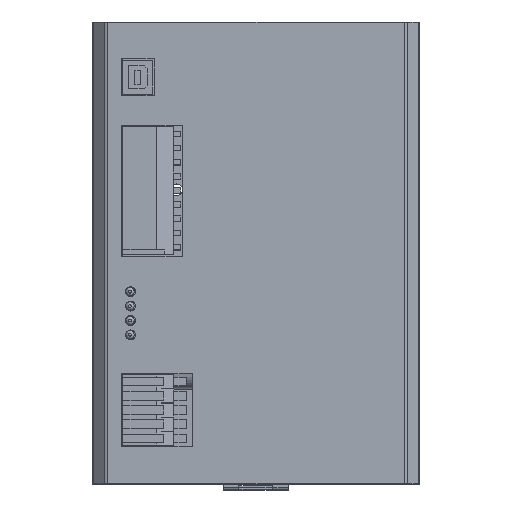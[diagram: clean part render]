
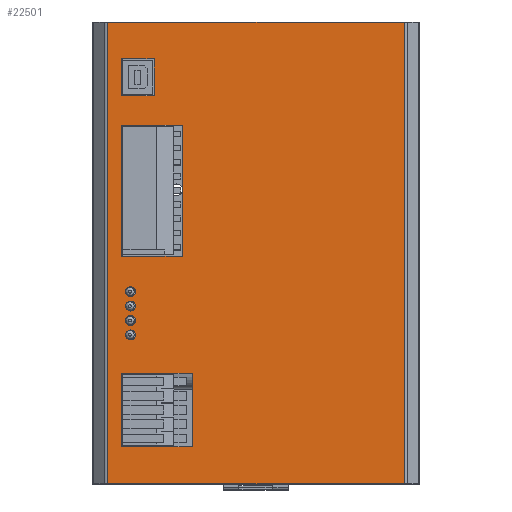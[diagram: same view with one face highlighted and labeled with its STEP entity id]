
A CAD part, top view. The second image highlights one B-rep face of the part: STEP entity #22501.
In plain terms, the highlighted planar face has unit normal (0, 0, 1).
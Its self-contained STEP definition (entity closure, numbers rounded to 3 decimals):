
#605=FACE_BOUND('',#3989,.T.);
#606=FACE_BOUND('',#3990,.T.);
#607=FACE_BOUND('',#3991,.T.);
#608=FACE_BOUND('',#3992,.T.);
#609=FACE_BOUND('',#3993,.T.);
#610=FACE_BOUND('',#3994,.T.);
#611=FACE_BOUND('',#3995,.T.);
#966=CIRCLE('',#23925,1.75);
#968=CIRCLE('',#23928,1.75);
#970=CIRCLE('',#23931,1.75);
#972=CIRCLE('',#23934,1.75);
#2527=FACE_OUTER_BOUND('',#3988,.T.);
#3988=EDGE_LOOP('',(#18781,#18782,#18783,#18784));
#3989=EDGE_LOOP('',(#18785,#18786,#18787,#18788));
#3990=EDGE_LOOP('',(#18789,#18790,#18791,#18792));
#3991=EDGE_LOOP('',(#18793,#18794,#18795,#18796));
#3992=EDGE_LOOP('',(#18797));
#3993=EDGE_LOOP('',(#18798));
#3994=EDGE_LOOP('',(#18799));
#3995=EDGE_LOOP('',(#18800));
#6187=LINE('',#35143,#8714);
#6188=LINE('',#35146,#8715);
#6304=LINE('',#35408,#8831);
#6307=LINE('',#35414,#8834);
#6310=LINE('',#35420,#8837);
#6313=LINE('',#35424,#8840);
#6315=LINE('',#35429,#8842);
#6318=LINE('',#35433,#8845);
#6321=LINE('',#35441,#8848);
#6324=LINE('',#35447,#8851);
#6327=LINE('',#35453,#8854);
#6330=LINE('',#35457,#8857);
#6343=LINE('',#35537,#8870);
#6348=LINE('',#35558,#8875);
#6359=LINE('',#35590,#8886);
#6360=LINE('',#35591,#8887);
#8714=VECTOR('',#28518,46.3);
#8715=VECTOR('',#28521,21.5);
#8831=VECTOR('',#28745,25.);
#8834=VECTOR('',#28750,26.1);
#8837=VECTOR('',#28755,25.);
#8840=VECTOR('',#28760,26.1);
#8842=VECTOR('',#28764,46.3);
#8845=VECTOR('',#28769,21.5);
#8848=VECTOR('',#28774,11.6);
#8851=VECTOR('',#28779,13.);
#8854=VECTOR('',#28784,11.6);
#8857=VECTOR('',#28789,13.);
#8870=VECTOR('',#28896,163.);
#8875=VECTOR('',#28915,163.);
#8886=VECTOR('',#28960,104.672);
#8887=VECTOR('',#28961,104.672);
#10741=VERTEX_POINT('',#34673);
#10743=VERTEX_POINT('',#34678);
#10745=VERTEX_POINT('',#34683);
#10747=VERTEX_POINT('',#34688);
#10917=VERTEX_POINT('',#35137);
#10919=VERTEX_POINT('',#35141);
#10920=VERTEX_POINT('',#35145);
#11011=VERTEX_POINT('',#35405);
#11012=VERTEX_POINT('',#35407);
#11014=VERTEX_POINT('',#35413);
#11016=VERTEX_POINT('',#35419);
#11018=VERTEX_POINT('',#35428);
#11021=VERTEX_POINT('',#35438);
#11022=VERTEX_POINT('',#35440);
#11024=VERTEX_POINT('',#35446);
#11026=VERTEX_POINT('',#35452);
#11045=VERTEX_POINT('',#35534);
#11046=VERTEX_POINT('',#35536);
#11052=VERTEX_POINT('',#35551);
#11055=VERTEX_POINT('',#35556);
#13348=EDGE_CURVE('',#10741,#10741,#966,.T.);
#13350=EDGE_CURVE('',#10743,#10743,#968,.T.);
#13352=EDGE_CURVE('',#10745,#10745,#970,.T.);
#13354=EDGE_CURVE('',#10747,#10747,#972,.T.);
#13584=EDGE_CURVE('',#10919,#10917,#6187,.T.);
#13585=EDGE_CURVE('',#10920,#10917,#6188,.T.);
#13715=EDGE_CURVE('',#11012,#11011,#6304,.T.);
#13718=EDGE_CURVE('',#11014,#11012,#6307,.T.);
#13721=EDGE_CURVE('',#11016,#11014,#6310,.T.);
#13724=EDGE_CURVE('',#11011,#11016,#6313,.T.);
#13726=EDGE_CURVE('',#11018,#10920,#6315,.T.);
#13729=EDGE_CURVE('',#10919,#11018,#6318,.T.);
#13732=EDGE_CURVE('',#11022,#11021,#6321,.T.);
#13735=EDGE_CURVE('',#11024,#11022,#6324,.T.);
#13738=EDGE_CURVE('',#11026,#11024,#6327,.T.);
#13741=EDGE_CURVE('',#11021,#11026,#6330,.T.);
#13780=EDGE_CURVE('',#11046,#11045,#6343,.T.);
#13790=EDGE_CURVE('',#11052,#11055,#6348,.T.);
#13805=EDGE_CURVE('',#11052,#11045,#6359,.T.);
#13806=EDGE_CURVE('',#11046,#11055,#6360,.T.);
#18781=ORIENTED_EDGE('',*,*,#13780,.T.);
#18782=ORIENTED_EDGE('',*,*,#13805,.F.);
#18783=ORIENTED_EDGE('',*,*,#13790,.T.);
#18784=ORIENTED_EDGE('',*,*,#13806,.F.);
#18785=ORIENTED_EDGE('',*,*,#13721,.T.);
#18786=ORIENTED_EDGE('',*,*,#13718,.T.);
#18787=ORIENTED_EDGE('',*,*,#13715,.T.);
#18788=ORIENTED_EDGE('',*,*,#13724,.T.);
#18789=ORIENTED_EDGE('',*,*,#13729,.T.);
#18790=ORIENTED_EDGE('',*,*,#13726,.T.);
#18791=ORIENTED_EDGE('',*,*,#13585,.T.);
#18792=ORIENTED_EDGE('',*,*,#13584,.F.);
#18793=ORIENTED_EDGE('',*,*,#13738,.T.);
#18794=ORIENTED_EDGE('',*,*,#13735,.T.);
#18795=ORIENTED_EDGE('',*,*,#13732,.T.);
#18796=ORIENTED_EDGE('',*,*,#13741,.T.);
#18797=ORIENTED_EDGE('',*,*,#13354,.T.);
#18798=ORIENTED_EDGE('',*,*,#13352,.T.);
#18799=ORIENTED_EDGE('',*,*,#13350,.T.);
#18800=ORIENTED_EDGE('',*,*,#13348,.T.);
#21364=PLANE('',#24152);
#22501=ADVANCED_FACE('',(#2527,#605,#606,#607,#608,#609,#610,#611),#21364,
 .T.);
#23925=AXIS2_PLACEMENT_3D('',#34674,#28134,#28135);
#23928=AXIS2_PLACEMENT_3D('',#34679,#28140,#28141);
#23931=AXIS2_PLACEMENT_3D('',#34684,#28146,#28147);
#23934=AXIS2_PLACEMENT_3D('',#34689,#28152,#28153);
#24152=AXIS2_PLACEMENT_3D('',#35589,#28958,#28959);
#28134=DIRECTION('center_axis',(0.,0.,-1.));
#28135=DIRECTION('ref_axis',(1.,0.,0.));
#28140=DIRECTION('center_axis',(0.,0.,-1.));
#28141=DIRECTION('ref_axis',(1.,0.,0.));
#28146=DIRECTION('center_axis',(0.,0.,-1.));
#28147=DIRECTION('ref_axis',(1.,0.,0.));
#28152=DIRECTION('center_axis',(0.,0.,-1.));
#28153=DIRECTION('ref_axis',(1.,0.,0.));
#28518=DIRECTION('',(0.,1.,0.));
#28521=DIRECTION('',(1.,0.,0.));
#28745=DIRECTION('',(1.,0.,0.));
#28750=DIRECTION('',(0.,1.,0.));
#28755=DIRECTION('',(-1.,0.,0.));
#28760=DIRECTION('',(0.,-1.,0.));
#28764=DIRECTION('',(0.,1.,0.));
#28769=DIRECTION('',(-1.,0.,0.));
#28774=DIRECTION('',(1.,0.,0.));
#28779=DIRECTION('',(0.,1.,0.));
#28784=DIRECTION('',(-1.,0.,0.));
#28789=DIRECTION('',(0.,-1.,0.));
#28896=DIRECTION('',(0.,1.,0.));
#28915=DIRECTION('',(0.,-1.,0.));
#28958=DIRECTION('center_axis',(0.,0.,1.));
#28959=DIRECTION('ref_axis',(1.,0.,0.));
#28960=DIRECTION('',(1.,0.,0.));
#28961=DIRECTION('',(-1.,0.,0.));
#34673=CARTESIAN_POINT('',(25.729,203.366,136.81));
#34674=CARTESIAN_POINT('Origin',(27.479,203.366,136.81));
#34678=CARTESIAN_POINT('',(25.729,198.286,136.81));
#34679=CARTESIAN_POINT('Origin',(27.479,198.286,136.81));
#34683=CARTESIAN_POINT('',(25.729,193.206,136.81));
#34684=CARTESIAN_POINT('Origin',(27.479,193.206,136.81));
#34688=CARTESIAN_POINT('',(25.729,188.106,136.81));
#34689=CARTESIAN_POINT('Origin',(27.479,188.106,136.81));
#35137=CARTESIAN_POINT('',(45.736,262.186,136.81));
#35141=CARTESIAN_POINT('',(45.736,215.886,136.81));
#35143=CARTESIAN_POINT('',(45.736,239.036,136.81));
#35145=CARTESIAN_POINT('',(24.236,262.186,136.81));
#35146=CARTESIAN_POINT('',(53.759,262.186,136.81));
#35405=CARTESIAN_POINT('',(49.236,174.636,136.81));
#35407=CARTESIAN_POINT('',(24.236,174.636,136.81));
#35408=CARTESIAN_POINT('',(54.259,174.636,136.81));
#35413=CARTESIAN_POINT('',(24.236,148.536,136.81));
#35414=CARTESIAN_POINT('',(24.236,189.336,136.81));
#35419=CARTESIAN_POINT('',(49.236,148.536,136.81));
#35420=CARTESIAN_POINT('',(54.259,148.536,136.81));
#35424=CARTESIAN_POINT('',(49.236,189.336,136.81));
#35428=CARTESIAN_POINT('',(24.236,215.886,136.81));
#35429=CARTESIAN_POINT('',(24.236,228.061,136.81));
#35433=CARTESIAN_POINT('',(53.759,215.886,136.81));
#35438=CARTESIAN_POINT('',(35.836,285.586,136.81));
#35440=CARTESIAN_POINT('',(24.236,285.586,136.81));
#35441=CARTESIAN_POINT('',(50.909,285.586,136.81));
#35446=CARTESIAN_POINT('',(24.236,272.586,136.81));
#35447=CARTESIAN_POINT('',(24.236,248.086,136.81));
#35452=CARTESIAN_POINT('',(35.836,272.586,136.81));
#35453=CARTESIAN_POINT('',(50.909,272.586,136.81));
#35457=CARTESIAN_POINT('',(35.836,248.086,136.81));
#35534=CARTESIAN_POINT('',(124.118,298.586,136.81));
#35536=CARTESIAN_POINT('',(124.118,135.586,136.81));
#35537=CARTESIAN_POINT('',(124.118,217.086,136.81));
#35551=CARTESIAN_POINT('',(19.446,298.586,136.81));
#35556=CARTESIAN_POINT('',(19.446,135.586,136.81));
#35558=CARTESIAN_POINT('',(19.446,217.086,136.81));
#35589=CARTESIAN_POINT('Origin',(71.782,217.086,136.81));
#35590=CARTESIAN_POINT('',(124.532,298.586,136.81));
#35591=CARTESIAN_POINT('',(19.032,135.586,136.81));
